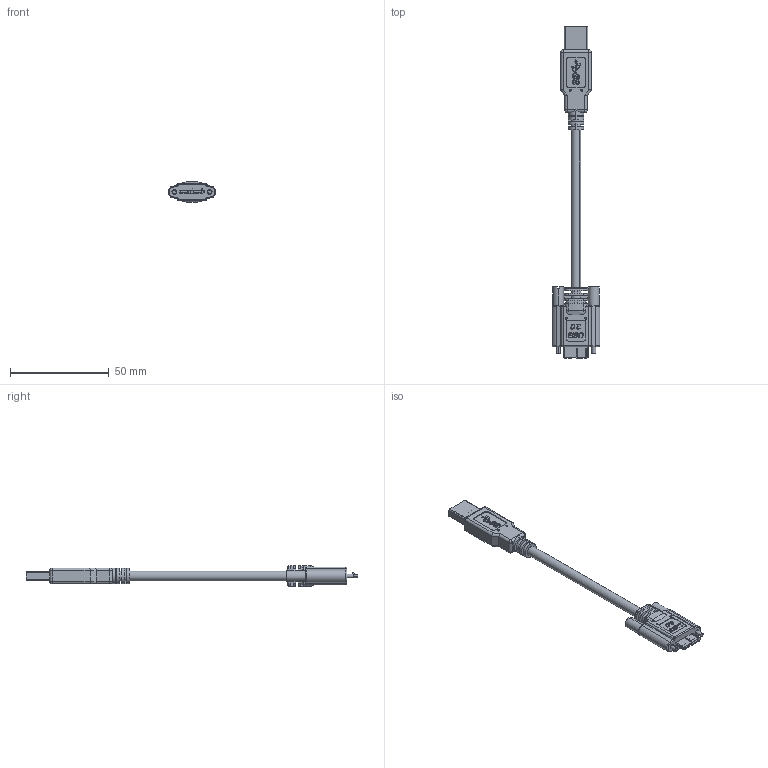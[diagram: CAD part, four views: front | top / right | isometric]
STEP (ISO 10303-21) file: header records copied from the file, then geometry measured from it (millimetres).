
FILE_DESCRIPTION (( 'STEP AP203' ), '1' );
FILE_NAME ('RR-ASMSK-XXGR.STEP', '2021-01-29T01:42:48', ( '' ), ( '' ), 'SwSTEP 2.0', 'SolidWorks 2019', '' );
FILE_SCHEMA (( 'CONFIG_CONTROL_DESIGN' ));
Length unit declared in the file: millimetre
Products named in the file (1): RR-ASMSK-XXGR
Bounding box: 24.17 x 168.2 x 10.48 mm (x, y, z)
Volume: 10873.8 mm3; surface area: 7537.4 mm2
Topology: 1 solids, 1 shells, 745 faces, 1994 edges, 1289 vertices
Faces by surface type: plane 441, cylinder 214, bspline 45, torus 29, cone 8, sphere 8
Entity records: 25111 total; most frequent: CARTESIAN_POINT 6396, ORIENTED_EDGE 3972, DIRECTION 3763, EDGE_CURVE 1986, VECTOR 1383, LINE 1383, VERTEX_POINT 1289, AXIS2_PLACEMENT_3D 1190
